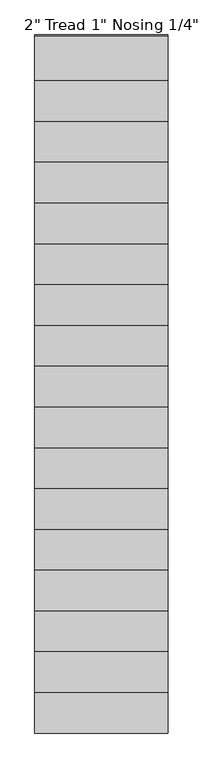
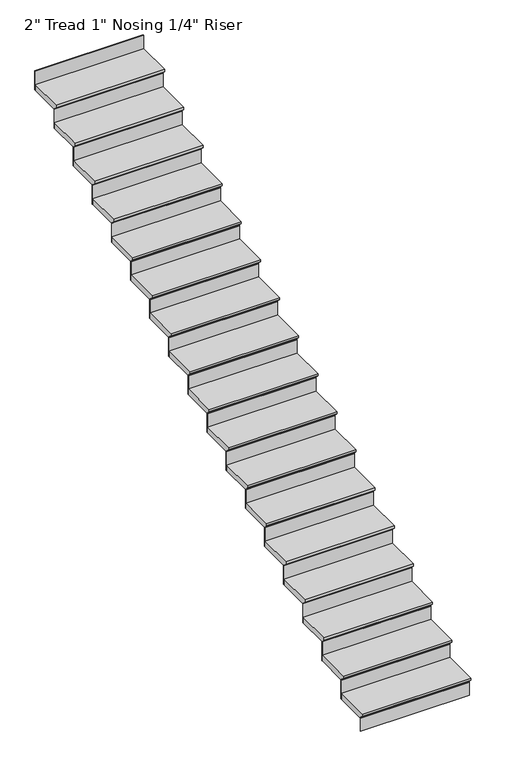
"""IFC4 building model written with IfcOpenShell, lengths in millimetres: stair flight geometry."""

from ifc_helpers import new_model, si_unit, frame, origin, origin_with_axes, place, context, project, spatial, polyline, outline, extrude, source, transform, mapped, element, save


def stair_flight_88e2de79(model_context):
    return source(origin(), model_context, "Body", "SweptSolid", [
        extrude(outline(polyline([(-339.2448877, 169.3333333), (-34.4448877, 169.3333333), (-34.4448877, 118.5333333), (-313.8448877, 118.5333333), (-313.8448877, 124.8833333), (-339.2448877, 150.2833333), (-339.2448877, 169.3333333)])), frame((-3824.0999147, 0.0, 0.0), z_axis=(1.0, 0.0, 0.0), x_axis=(0.0, 1.0, 0.0)), (0.0, 0.0, 1.0), 914.4),
        extrude(outline(polyline([(-2909.6999147, -307.4948877), (-2909.6999147, -313.8448877), (-3824.0999147, -313.8448877), (-3824.0999147, -307.4948877), (-2909.6999147, -307.4948877)])), origin_with_axes(), (0.0, 0.0, 1.0), 118.5333333),
        extrude(outline(polyline([(-2909.6999147, -28.0948877), (-2909.6999147, -34.4448877), (-3824.0999147, -34.4448877), (-3824.0999147, -28.0948877), (-2909.6999147, -28.0948877)])), frame((0.0, 0.0, 118.5333333), z_axis=(0.0, 0.0, 1.0), x_axis=(1.0, 0.0, 0.0)), (0.0, 0.0, 1.0), 169.3333333),
        extrude(outline(polyline([(-59.8448877, 338.6666667), (244.9551123, 338.6666667), (244.9551123, 287.8666667), (-34.4448877, 287.8666667), (-34.4448877, 294.2166667), (-59.8448877, 319.6166667), (-59.8448877, 338.6666667)])), frame((-3824.0999147, 0.0, 0.0), z_axis=(1.0, 0.0, 0.0), x_axis=(0.0, 1.0, 0.0)), (0.0, 0.0, 1.0), 914.4),
        extrude(outline(polyline([(-2909.6999147, 251.3051123), (-2909.6999147, 244.9551123), (-3824.0999147, 244.9551123), (-3824.0999147, 251.3051123), (-2909.6999147, 251.3051123)])), frame((0.0, 0.0, 287.8666667), z_axis=(0.0, 0.0, 1.0), x_axis=(1.0, 0.0, 0.0)), (0.0, 0.0, 1.0), 169.3333333),
        extrude(outline(polyline([(219.5551123, 508.0), (524.3551123, 508.0), (524.3551123, 457.2), (244.9551123, 457.2), (244.9551123, 463.55), (219.5551123, 488.95), (219.5551123, 508.0)])), frame((-3824.0999147, 0.0, 0.0), z_axis=(1.0, 0.0, 0.0), x_axis=(0.0, 1.0, 0.0)), (0.0, 0.0, 1.0), 914.4),
        extrude(outline(polyline([(-2909.6999147, 530.7051123), (-2909.6999147, 524.3551123), (-3824.0999147, 524.3551123), (-3824.0999147, 530.7051123), (-2909.6999147, 530.7051123)])), frame((0.0, 0.0, 457.2), z_axis=(0.0, 0.0, 1.0), x_axis=(1.0, 0.0, 0.0)), (0.0, 0.0, 1.0), 169.3333333),
        extrude(outline(polyline([(498.9551123, 677.3333333), (803.7551123, 677.3333333), (803.7551123, 626.5333333), (524.3551123, 626.5333333), (524.3551123, 632.8833333), (498.9551123, 658.2833333), (498.9551123, 677.3333333)])), frame((-3824.0999147, 0.0, 0.0), z_axis=(1.0, 0.0, 0.0), x_axis=(0.0, 1.0, 0.0)), (0.0, 0.0, 1.0), 914.4),
        extrude(outline(polyline([(-2909.6999147, 810.1051123), (-2909.6999147, 803.7551123), (-3824.0999147, 803.7551123), (-3824.0999147, 810.1051123), (-2909.6999147, 810.1051123)])), frame((0.0, 0.0, 626.5333333), z_axis=(0.0, 0.0, 1.0), x_axis=(1.0, 0.0, 0.0)), (0.0, 0.0, 1.0), 169.3333333),
        extrude(outline(polyline([(778.3551123, 846.6666667), (1083.1551123, 846.6666667), (1083.1551123, 795.8666667), (803.7551123, 795.8666667), (803.7551123, 802.2166667), (778.3551123, 827.6166667), (778.3551123, 846.6666667)])), frame((-3824.0999147, 0.0, 0.0), z_axis=(1.0, 0.0, 0.0), x_axis=(0.0, 1.0, 0.0)), (0.0, 0.0, 1.0), 914.4),
        extrude(outline(polyline([(-2909.6999147, 1089.5051123), (-2909.6999147, 1083.1551123), (-3824.0999147, 1083.1551123), (-3824.0999147, 1089.5051123), (-2909.6999147, 1089.5051123)])), frame((0.0, 0.0, 795.8666667), z_axis=(0.0, 0.0, 1.0), x_axis=(1.0, 0.0, 0.0)), (0.0, 0.0, 1.0), 169.3333333),
        extrude(outline(polyline([(1057.7551123, 1016.0), (1362.5551123, 1016.0), (1362.5551123, 965.2), (1083.1551123, 965.2), (1083.1551123, 971.55), (1057.7551123, 996.95), (1057.7551123, 1016.0)])), frame((-3824.0999147, 0.0, 0.0), z_axis=(1.0, 0.0, 0.0), x_axis=(0.0, 1.0, 0.0)), (0.0, 0.0, 1.0), 914.4),
        extrude(outline(polyline([(-2909.6999147, 1368.9051123), (-2909.6999147, 1362.5551123), (-3824.0999147, 1362.5551123), (-3824.0999147, 1368.9051123), (-2909.6999147, 1368.9051123)])), frame((0.0, 0.0, 965.2), z_axis=(0.0, 0.0, 1.0), x_axis=(1.0, 0.0, 0.0)), (0.0, 0.0, 1.0), 169.3333333),
        extrude(outline(polyline([(1337.1551123, 1185.3333333), (1641.9551123, 1185.3333333), (1641.9551123, 1134.5333333), (1362.5551123, 1134.5333333), (1362.5551123, 1140.8833333), (1337.1551123, 1166.2833333), (1337.1551123, 1185.3333333)])), frame((-3824.0999147, 0.0, 0.0), z_axis=(1.0, 0.0, 0.0), x_axis=(0.0, 1.0, 0.0)), (0.0, 0.0, 1.0), 914.4),
        extrude(outline(polyline([(-2909.6999147, 1648.3051123), (-2909.6999147, 1641.9551123), (-3824.0999147, 1641.9551123), (-3824.0999147, 1648.3051123), (-2909.6999147, 1648.3051123)])), frame((0.0, 0.0, 1134.5333333), z_axis=(0.0, 0.0, 1.0), x_axis=(1.0, 0.0, 0.0)), (0.0, 0.0, 1.0), 169.3333333),
        extrude(outline(polyline([(1616.5551123, 1354.6666667), (1921.3551123, 1354.6666667), (1921.3551123, 1303.8666667), (1641.9551123, 1303.8666667), (1641.9551123, 1310.2166667), (1616.5551123, 1335.6166667), (1616.5551123, 1354.6666667)])), frame((-3824.0999147, 0.0, 0.0), z_axis=(1.0, 0.0, 0.0), x_axis=(0.0, 1.0, 0.0)), (0.0, 0.0, 1.0), 914.4),
        extrude(outline(polyline([(-2909.6999147, 1927.7051123), (-2909.6999147, 1921.3551123), (-3824.0999147, 1921.3551123), (-3824.0999147, 1927.7051123), (-2909.6999147, 1927.7051123)])), frame((0.0, 0.0, 1303.8666667), z_axis=(0.0, 0.0, 1.0), x_axis=(1.0, 0.0, 0.0)), (0.0, 0.0, 1.0), 169.3333333),
        extrude(outline(polyline([(1895.9551123, 1524.0), (2200.7551123, 1524.0), (2200.7551123, 1473.2), (1921.3551123, 1473.2), (1921.3551123, 1479.55), (1895.9551123, 1504.95), (1895.9551123, 1524.0)])), frame((-3824.0999147, 0.0, 0.0), z_axis=(1.0, 0.0, 0.0), x_axis=(0.0, 1.0, 0.0)), (0.0, 0.0, 1.0), 914.4),
        extrude(outline(polyline([(-2909.6999147, 2207.1051123), (-2909.6999147, 2200.7551123), (-3824.0999147, 2200.7551123), (-3824.0999147, 2207.1051123), (-2909.6999147, 2207.1051123)])), frame((0.0, 0.0, 1473.2), z_axis=(0.0, 0.0, 1.0), x_axis=(1.0, 0.0, 0.0)), (0.0, 0.0, 1.0), 169.3333333),
        extrude(outline(polyline([(2175.3551123, 1693.3333333), (2480.1551123, 1693.3333333), (2480.1551123, 1642.5333333), (2200.7551123, 1642.5333333), (2200.7551123, 1648.8833333), (2175.3551123, 1674.2833333), (2175.3551123, 1693.3333333)])), frame((-3824.0999147, 0.0, 0.0), z_axis=(1.0, 0.0, 0.0), x_axis=(0.0, 1.0, 0.0)), (0.0, 0.0, 1.0), 914.4),
        extrude(outline(polyline([(-2909.6999147, 2486.5051123), (-2909.6999147, 2480.1551123), (-3824.0999147, 2480.1551123), (-3824.0999147, 2486.5051123), (-2909.6999147, 2486.5051123)])), frame((0.0, 0.0, 1642.5333333), z_axis=(0.0, 0.0, 1.0), x_axis=(1.0, 0.0, 0.0)), (0.0, 0.0, 1.0), 169.3333333),
        extrude(outline(polyline([(2454.7551123, 1862.6666667), (2759.5551123, 1862.6666667), (2759.5551123, 1811.8666667), (2480.1551123, 1811.8666667), (2480.1551123, 1818.2166667), (2454.7551123, 1843.6166667), (2454.7551123, 1862.6666667)])), frame((-3824.0999147, 0.0, 0.0), z_axis=(1.0, 0.0, 0.0), x_axis=(0.0, 1.0, 0.0)), (0.0, 0.0, 1.0), 914.4),
        extrude(outline(polyline([(-2909.6999147, 2765.9051123), (-2909.6999147, 2759.5551123), (-3824.0999147, 2759.5551123), (-3824.0999147, 2765.9051123), (-2909.6999147, 2765.9051123)])), frame((0.0, 0.0, 1811.8666667), z_axis=(0.0, 0.0, 1.0), x_axis=(1.0, 0.0, 0.0)), (0.0, 0.0, 1.0), 169.3333333),
        extrude(outline(polyline([(2734.1551123, 2032.0), (3038.9551123, 2032.0), (3038.9551123, 1981.2), (2759.5551123, 1981.2), (2759.5551123, 1987.55), (2734.1551123, 2012.95), (2734.1551123, 2032.0)])), frame((-3824.0999147, 0.0, 0.0), z_axis=(1.0, 0.0, 0.0), x_axis=(0.0, 1.0, 0.0)), (0.0, 0.0, 1.0), 914.4),
        extrude(outline(polyline([(-2909.6999147, 3045.3051123), (-2909.6999147, 3038.9551123), (-3824.0999147, 3038.9551123), (-3824.0999147, 3045.3051123), (-2909.6999147, 3045.3051123)])), frame((0.0, 0.0, 1981.2), z_axis=(0.0, 0.0, 1.0), x_axis=(1.0, 0.0, 0.0)), (0.0, 0.0, 1.0), 169.3333333),
        extrude(outline(polyline([(3013.5551123, 2201.3333333), (3318.3551123, 2201.3333333), (3318.3551123, 2150.5333333), (3038.9551123, 2150.5333333), (3038.9551123, 2156.8833333), (3013.5551123, 2182.2833333), (3013.5551123, 2201.3333333)])), frame((-3824.0999147, 0.0, 0.0), z_axis=(1.0, 0.0, 0.0), x_axis=(0.0, 1.0, 0.0)), (0.0, 0.0, 1.0), 914.4),
        extrude(outline(polyline([(-2909.6999147, 3324.7051123), (-2909.6999147, 3318.3551123), (-3824.0999147, 3318.3551123), (-3824.0999147, 3324.7051123), (-2909.6999147, 3324.7051123)])), frame((0.0, 0.0, 2150.5333333), z_axis=(0.0, 0.0, 1.0), x_axis=(1.0, 0.0, 0.0)), (0.0, 0.0, 1.0), 169.3333333),
        extrude(outline(polyline([(3292.9551123, 2370.6666667), (3597.7551123, 2370.6666667), (3597.7551123, 2319.8666667), (3318.3551123, 2319.8666667), (3318.3551123, 2326.2166667), (3292.9551123, 2351.6166667), (3292.9551123, 2370.6666667)])), frame((-3824.0999147, 0.0, 0.0), z_axis=(1.0, 0.0, 0.0), x_axis=(0.0, 1.0, 0.0)), (0.0, 0.0, 1.0), 914.4),
        extrude(outline(polyline([(-2909.6999147, 3604.1051123), (-2909.6999147, 3597.7551123), (-3824.0999147, 3597.7551123), (-3824.0999147, 3604.1051123), (-2909.6999147, 3604.1051123)])), frame((0.0, 0.0, 2319.8666667), z_axis=(0.0, 0.0, 1.0), x_axis=(1.0, 0.0, 0.0)), (0.0, 0.0, 1.0), 169.3333333),
        extrude(outline(polyline([(3572.3551123, 2540.0), (3877.1551123, 2540.0), (3877.1551123, 2489.2), (3597.7551123, 2489.2), (3597.7551123, 2495.55), (3572.3551123, 2520.95), (3572.3551123, 2540.0)])), frame((-3824.0999147, 0.0, 0.0), z_axis=(1.0, 0.0, 0.0), x_axis=(0.0, 1.0, 0.0)), (0.0, 0.0, 1.0), 914.4),
        extrude(outline(polyline([(-2909.6999147, 3883.5051123), (-2909.6999147, 3877.1551123), (-3824.0999147, 3877.1551123), (-3824.0999147, 3883.5051123), (-2909.6999147, 3883.5051123)])), frame((0.0, 0.0, 2489.2), z_axis=(0.0, 0.0, 1.0), x_axis=(1.0, 0.0, 0.0)), (0.0, 0.0, 1.0), 169.3333333),
        extrude(outline(polyline([(3851.7551123, 2709.3333333), (4156.5551123, 2709.3333333), (4156.5551123, 2658.5333333), (3877.1551123, 2658.5333333), (3877.1551123, 2664.8833333), (3851.7551123, 2690.2833333), (3851.7551123, 2709.3333333)])), frame((-3824.0999147, 0.0, 0.0), z_axis=(1.0, 0.0, 0.0), x_axis=(0.0, 1.0, 0.0)), (0.0, 0.0, 1.0), 914.4),
        extrude(outline(polyline([(-2909.6999147, 4162.9051123), (-2909.6999147, 4156.5551123), (-3824.0999147, 4156.5551123), (-3824.0999147, 4162.9051123), (-2909.6999147, 4162.9051123)])), frame((0.0, 0.0, 2658.5333333), z_axis=(0.0, 0.0, 1.0), x_axis=(1.0, 0.0, 0.0)), (0.0, 0.0, 1.0), 169.3333333),
        extrude(outline(polyline([(-2909.6999147, 4442.3051123), (-2909.6999147, 4435.9551123), (-3824.0999147, 4435.9551123), (-3824.0999147, 4442.3051123), (-2909.6999147, 4442.3051123)])), frame((0.0, 0.0, 2827.8666667), z_axis=(0.0, 0.0, 1.0), x_axis=(1.0, 0.0, 0.0)), (0.0, 0.0, 1.0), 169.3333333),
        extrude(outline(polyline([(4131.1551123, 2878.6666667), (4435.9551123, 2878.6666667), (4435.9551123, 2827.8666667), (4156.5551123, 2827.8666667), (4156.5551123, 2834.2166667), (4131.1551123, 2859.6166667), (4131.1551123, 2878.6666667)])), frame((-3824.0999147, 0.0, 0.0), z_axis=(1.0, 0.0, 0.0), x_axis=(0.0, 1.0, 0.0)), (0.0, 0.0, 1.0), 914.4),
    ])


if __name__ == "__main__":
    model = new_model("IFC4")
    model_context = context("Model", 3, world=origin())
    ifc_project = project(units=[si_unit("LENGTHUNIT", "METRE", prefix="MILLI")], contexts=[model_context])
    site = spatial("IfcSite", under=ifc_project)
    building = spatial("IfcBuilding", under=site)
    placement = place(None, origin())
    stair_flight_shape = stair_flight_88e2de79(model_context)
    element("IfcStairFlight", 1, ObjectType="2\" Tread 1\" Nosing 1/4\" Riser", at=placement, inside=building, context=model_context, shape_type="MappedRepresentation", body=[
        mapped(stair_flight_shape, transform((0.0, 0.0, 0.0), x_axis=(1.0, 0.0, 0.0), y_axis=(0.0, 1.0, 0.0), z_axis=(0.0, 0.0, 1.0))),
    ])
    save(model, "model.ifc")
